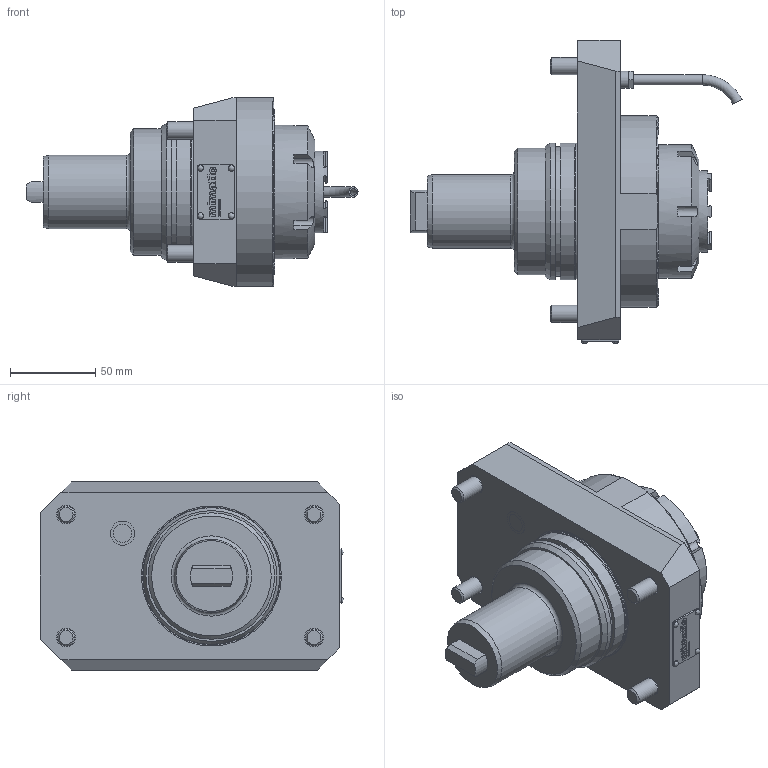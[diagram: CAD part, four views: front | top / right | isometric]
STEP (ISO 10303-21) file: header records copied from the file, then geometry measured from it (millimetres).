
FILE_DESCRIPTION(/* description */ (''),/* implementation_level */ '2;1');
FILE_NAME(/* name */ '175786',/* time_stamp */ '2020-02-24T09:33:54+01:00',/* author */ (''),/* organization */ (''),/* preprocessor_version */ 'ST-DEVELOPER v16.5',/* originating_system */ 'HiCAD 2017 2201.0 Build 268',/* authorisation */ '');
FILE_SCHEMA (('AUTOMOTIVE_DESIGN { 1 0 10303 214 1 1 1 1 }'));
Length unit declared in the file: millimetre
Products named in the file (8): Root; Teil; ABCDEFGHIJKLMNOPQRSTUVWXYZ[\]^_`ABCDEFGHIJKLMNOP镀燊Ʊ
Assembly tree (7 placements, depth 3):
  Root
    Teil
      ABCDEFGHIJKLMNOPQRSTUVWXYZ[\]^_`ABCDEFGHIJKLMNOP镀燊Ʊ
      ABCDEFGHIJKLMNOPQRSTUVWXYZ[\]^_`ABCDEFGHIJKLMNOP镀燊Ʊ
      ABCDEFGHIJKLMNOPQRSTUVWXYZ[\]^_`ABCDEFGHIJKLMNOP镀燊Ʊ
      ABCDEFGHIJKLMNOPQRSTUVWXYZ[\]^_`ABCDEFGHIJKLMNOP镀燊Ʊ
      ABCDEFGHIJKLMNOPQRSTUVWXYZ[\]^_`ABCDEFGHIJKLMNOP镀燊Ʊ
      ABCDEFGHIJKLMNOPQRSTUVWXYZ[\]^_`ABCDEFGHIJKLMNOP镀燊Ʊ
Bounding box: 194.21 x 177.29 x 110 mm (x, y, z)
Volume: 962407 mm3; surface area: 118232.8 mm2
Topology: 12 solids, 22 shells, 642 faces, 1617 edges, 1066 vertices
Faces by surface type: plane 386, cylinder 155, bspline 42, cone 31, torus 24, sphere 4
Full cylindrical faces by diameter (mm): 2 x4, 2.2 x4, 4 x1, 5 x6, 5.5 x6, 6 x1, 8.16 x8, 8.773 x2, 10 x11, 10.82 x1, 11 x4, 14.18 x1, 16 x4, 18 x4, 30.499 x1, 30.5 x1, 33.5 x2, 35 x1, 37.03 x1, 43 x1, 47.9 x1, 48.16 x2, 49.999 x1, 50 x1, 50.499 x1, 69.999 x1, 70.4 x1, 74 x1, 74.6 x1, 74.999 x1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
Entity records: 40786 total; most frequent: CARTESIAN_POINT 9439, PRESENTATION_STYLE_ASSIGNMENT 3265, OVER_RIDING_STYLED_ITEM 3258, COLOUR_RGB 2873, DRAUGHTING_PRE_DEFINED_CURVE_FONT 2868, CURVE_STYLE 2868, ORIENTED_EDGE 2868, DIRECTION 2832
